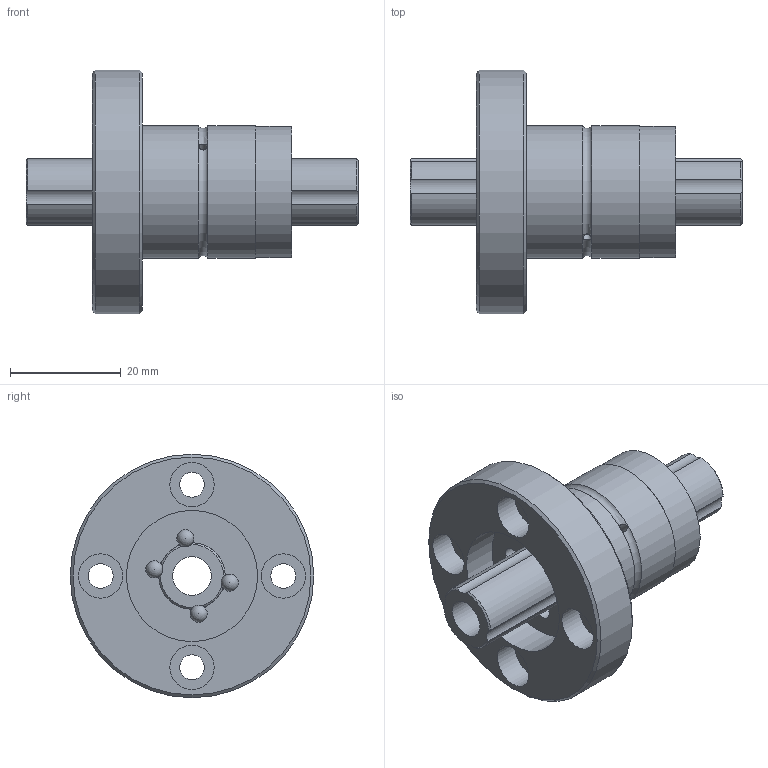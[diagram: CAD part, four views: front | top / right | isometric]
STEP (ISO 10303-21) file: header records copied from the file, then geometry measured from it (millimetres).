
FILE_DESCRIPTION(/* description */ ('Unknown'),/* implementation_level */ '2;1');
FILE_NAME(/* name */ 'TLF012-D1-L60',/* time_stamp */ '2024-12-16T13:44:25+08:00',/* author */ ('Unknown'),/* organization */ ('Unknown'),/* preprocessor_version */ 'ST-DEVELOPER v18.102',/* originating_system */ 'Solid Edge',/* authorisation */ 'Unknown');
FILE_SCHEMA (('AUTOMOTIVE_DESIGN {1 0 10303 214 3 1 1}'));
Length unit declared in the file: millimetre
Products named in the file (3): TLF012-D1-L60; TLF012-D1-xxxx; TLF012
Assembly tree (2 placements, depth 2):
  TLF012-D1-L60
    TLF012-D1-xxxx
    TLF012
Bounding box: 60 x 44 x 44 mm (x, y, z)
Volume: 22066.3 mm3; surface area: 13125.5 mm2
Topology: 2 solids, 2 shells, 74 faces, 243 edges, 164 vertices
Faces by surface type: cylinder 32, sphere 20, plane 11, cone 10, torus 1
Full cylindrical faces by diameter (mm): 1.5 x2, 4.5 x4, 7 x1, 8 x4, 23.7 x2, 24 x2, 44 x1
Entity records: 2999 total; most frequent: CARTESIAN_POINT 1233, DIRECTION 342, ORIENTED_EDGE 284, EDGE_LOOP 168, FACE_BOUND 168, AXIS2_PLACEMENT_3D 163, EDGE_CURVE 142, VERTEX_POINT 118
